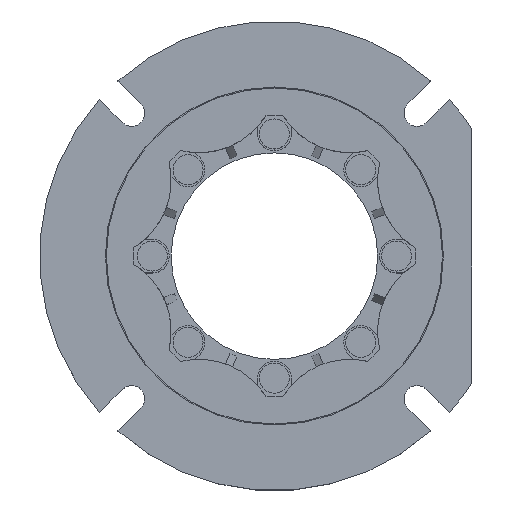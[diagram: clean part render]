
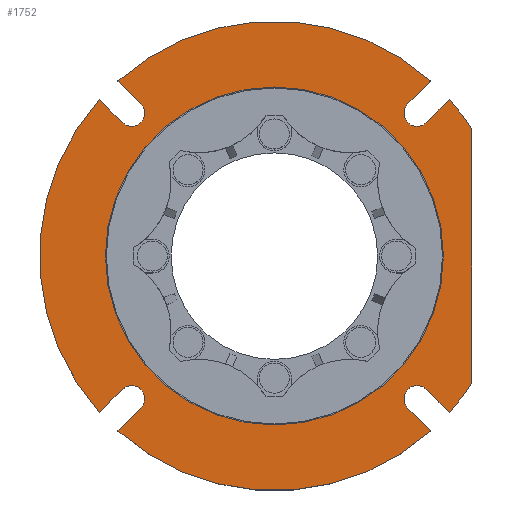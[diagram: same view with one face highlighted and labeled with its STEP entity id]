
A CAD part, top view. The second image highlights one B-rep face of the part: STEP entity #1752.
In plain terms, the highlighted planar face has unit normal (0, 0, 1) as drawn and (1, 0, 0) by its records, which use the part's own axes.
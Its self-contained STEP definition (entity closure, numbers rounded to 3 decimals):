
#1752=ADVANCED_FACE('',(#1982,#1955),#5540,.T.);
#1955=FACE_BOUND('',#2199,.T.);
#1982=FACE_OUTER_BOUND('',#2198,.T.);
#2198=EDGE_LOOP('',(#2600,#2601,#2602,#2603,#2604,#2605,#2606,#2607,#2608,
#2609,#2610,#2611,#2612,#2613,#2614,#2615,#2616,#2617));
#2199=EDGE_LOOP('',(#2618,#2619));
#2600=ORIENTED_EDGE('',*,*,#4069,.F.);
#2601=ORIENTED_EDGE('',*,*,#4074,.F.);
#2602=ORIENTED_EDGE('',*,*,#3710,.F.);
#2603=ORIENTED_EDGE('',*,*,#3726,.F.);
#2604=ORIENTED_EDGE('',*,*,#3802,.F.);
#2605=ORIENTED_EDGE('',*,*,#4047,.F.);
#2606=ORIENTED_EDGE('',*,*,#4051,.F.);
#2607=ORIENTED_EDGE('',*,*,#4050,.F.);
#2608=ORIENTED_EDGE('',*,*,#3720,.F.);
#2609=ORIENTED_EDGE('',*,*,#4055,.F.);
#2610=ORIENTED_EDGE('',*,*,#4059,.F.);
#2611=ORIENTED_EDGE('',*,*,#4058,.F.);
#2612=ORIENTED_EDGE('',*,*,#3716,.F.);
#2613=ORIENTED_EDGE('',*,*,#4063,.F.);
#2614=ORIENTED_EDGE('',*,*,#4067,.F.);
#2615=ORIENTED_EDGE('',*,*,#4066,.F.);
#2616=ORIENTED_EDGE('',*,*,#3724,.F.);
#2617=ORIENTED_EDGE('',*,*,#4076,.F.);
#2618=ORIENTED_EDGE('',*,*,#4164,.F.);
#2619=ORIENTED_EDGE('',*,*,#3978,.F.);
#3710=EDGE_CURVE('',#5181,#5182,#4246,.T.);
#3716=EDGE_CURVE('',#5187,#5188,#4249,.T.);
#3720=EDGE_CURVE('',#5191,#5192,#4251,.T.);
#3724=EDGE_CURVE('',#5195,#5196,#4253,.T.);
#3726=EDGE_CURVE('',#5200,#5181,#4778,.T.);
#3802=EDGE_CURVE('',#5201,#5200,#4287,.T.);
#3978=EDGE_CURVE('',#5197,#5419,#4372,.T.);
#4047=EDGE_CURVE('',#5202,#5201,#4963,.T.);
#4050=EDGE_CURVE('',#5192,#5203,#4966,.T.);
#4051=EDGE_CURVE('',#5203,#5202,#4390,.T.);
#4055=EDGE_CURVE('',#5204,#5191,#4969,.T.);
#4058=EDGE_CURVE('',#5188,#5205,#4972,.T.);
#4059=EDGE_CURVE('',#5205,#5204,#4392,.T.);
#4063=EDGE_CURVE('',#5206,#5187,#4975,.T.);
#4066=EDGE_CURVE('',#5196,#5207,#4978,.T.);
#4067=EDGE_CURVE('',#5207,#5206,#4394,.T.);
#4069=EDGE_CURVE('',#5198,#5199,#4396,.T.);
#4074=EDGE_CURVE('',#5182,#5198,#4982,.T.);
#4076=EDGE_CURVE('',#5199,#5195,#4984,.T.);
#4164=EDGE_CURVE('',#5419,#5197,#4434,.T.);
#4246=TRIMMED_CURVE($,#4508,(#8184),(#8185),.T.,.CARTESIAN.);
#4249=TRIMMED_CURVE($,#4511,(#8199),(#8200),.T.,.CARTESIAN.);
#4251=TRIMMED_CURVE($,#4513,(#8209),(#8210),.T.,.CARTESIAN.);
#4253=TRIMMED_CURVE($,#4515,(#8219),(#8220),.T.,.CARTESIAN.);
#4287=TRIMMED_CURVE($,#4549,(#8409),(#8410),.T.,.CARTESIAN.);
#4372=TRIMMED_CURVE($,#4634,(#8878),(#8879),.T.,.CARTESIAN.);
#4390=TRIMMED_CURVE($,#4652,(#9074),(#9075),.T.,.CARTESIAN.);
#4392=TRIMMED_CURVE($,#4654,(#9092),(#9093),.T.,.CARTESIAN.);
#4394=TRIMMED_CURVE($,#4656,(#9110),(#9111),.T.,.CARTESIAN.);
#4396=TRIMMED_CURVE($,#4658,(#9116),(#9117),.T.,.CARTESIAN.);
#4434=TRIMMED_CURVE($,#4696,(#9344),(#9345),.T.,.CARTESIAN.);
#4508=CIRCLE('',#6083,125.);
#4511=CIRCLE('',#6086,125.);
#4513=CIRCLE('',#6088,125.);
#4515=CIRCLE('',#6090,125.);
#4549=CIRCLE('',#6124,125.);
#4634=CIRCLE('',#6209,90.);
#4652=CIRCLE('',#6227,7.);
#4654=CIRCLE('',#6229,7.);
#4656=CIRCLE('',#6231,7.);
#4658=CIRCLE('',#6233,7.);
#4696=CIRCLE('',#6271,90.);
#4778=B_SPLINE_CURVE_WITH_KNOTS('',1,(#8223,#8224),.UNSPECIFIED.,.F.,.F.,
(2,2),(-135.647,0.),.UNSPECIFIED.);
#4963=B_SPLINE_CURVE_WITH_KNOTS('',1,(#9065,#9066),.UNSPECIFIED.,.F.,.F.,
(2,2),(0.,17.304),.UNSPECIFIED.);
#4966=B_SPLINE_CURVE_WITH_KNOTS('',1,(#9071,#9072),.UNSPECIFIED.,.F.,.F.,
(2,2),(0.,17.304),.UNSPECIFIED.);
#4969=B_SPLINE_CURVE_WITH_KNOTS('',1,(#9083,#9084),.UNSPECIFIED.,.F.,.F.,
(2,2),(0.,17.304),.UNSPECIFIED.);
#4972=B_SPLINE_CURVE_WITH_KNOTS('',1,(#9089,#9090),.UNSPECIFIED.,.F.,.F.,
(2,2),(0.,17.304),.UNSPECIFIED.);
#4975=B_SPLINE_CURVE_WITH_KNOTS('',1,(#9101,#9102),.UNSPECIFIED.,.F.,.F.,
(2,2),(0.,17.304),.UNSPECIFIED.);
#4978=B_SPLINE_CURVE_WITH_KNOTS('',1,(#9107,#9108),.UNSPECIFIED.,.F.,.F.,
(2,2),(0.,17.304),.UNSPECIFIED.);
#4982=B_SPLINE_CURVE_WITH_KNOTS('',1,(#9127,#9128),.UNSPECIFIED.,.F.,.F.,
(2,2),(0.,17.304),.UNSPECIFIED.);
#4984=B_SPLINE_CURVE_WITH_KNOTS('',1,(#9131,#9132),.UNSPECIFIED.,.F.,.F.,
(2,2),(0.,17.304),.UNSPECIFIED.);
#5181=VERTEX_POINT('',#7648);
#5182=VERTEX_POINT('',#7649);
#5187=VERTEX_POINT('',#7654);
#5188=VERTEX_POINT('',#7655);
#5191=VERTEX_POINT('',#7658);
#5192=VERTEX_POINT('',#7659);
#5195=VERTEX_POINT('',#7662);
#5196=VERTEX_POINT('',#7663);
#5197=VERTEX_POINT('',#7664);
#5198=VERTEX_POINT('',#7665);
#5199=VERTEX_POINT('',#7666);
#5200=VERTEX_POINT('',#7667);
#5201=VERTEX_POINT('',#7668);
#5202=VERTEX_POINT('',#7669);
#5203=VERTEX_POINT('',#7670);
#5204=VERTEX_POINT('',#7671);
#5205=VERTEX_POINT('',#7672);
#5206=VERTEX_POINT('',#7673);
#5207=VERTEX_POINT('',#7674);
#5419=VERTEX_POINT('',#7886);
#5540=PLANE('',#5841);
#5841=AXIS2_PLACEMENT_3D('',#7037,#6308,$);
#6083=AXIS2_PLACEMENT_3D($,#8183,#6606,#6607);
#6086=AXIS2_PLACEMENT_3D($,#8198,#6612,#6613);
#6088=AXIS2_PLACEMENT_3D($,#8208,#6616,#6617);
#6090=AXIS2_PLACEMENT_3D($,#8218,#6620,#6621);
#6124=AXIS2_PLACEMENT_3D($,#8408,#6688,#6689);
#6209=AXIS2_PLACEMENT_3D($,#8877,#6858,#6859);
#6227=AXIS2_PLACEMENT_3D($,#9073,#6894,#6895);
#6229=AXIS2_PLACEMENT_3D($,#9091,#6898,#6899);
#6231=AXIS2_PLACEMENT_3D($,#9109,#6902,#6903);
#6233=AXIS2_PLACEMENT_3D($,#9115,#6906,#6907);
#6271=AXIS2_PLACEMENT_3D($,#9343,#6982,#6983);
#6308=DIRECTION('',(1.,0.,0.));
#6606=DIRECTION('',(-1.,0.,0.));
#6607=DIRECTION('',(0.,0.543,0.84));
#6612=DIRECTION('',(-1.,0.,0.));
#6613=DIRECTION('',(0.,0.666,-0.746));
#6616=DIRECTION('',(-1.,0.,0.));
#6617=DIRECTION('',(0.,-0.746,-0.666));
#6620=DIRECTION('',(-1.,0.,0.));
#6621=DIRECTION('',(0.,0.746,0.666));
#6688=DIRECTION('',(-1.,0.,0.));
#6689=DIRECTION('',(0.,-0.666,0.746));
#6858=DIRECTION('',(1.,0.,0.));
#6859=DIRECTION('',(0.,0.,-1.));
#6894=DIRECTION('',(1.,0.,0.));
#6895=DIRECTION('',(0.,-0.707,-0.707));
#6898=DIRECTION('',(1.,0.,0.));
#6899=DIRECTION('',(0.,0.707,-0.707));
#6902=DIRECTION('',(1.,0.,0.));
#6903=DIRECTION('',(0.,0.707,0.707));
#6906=DIRECTION('',(1.,0.,0.));
#6907=DIRECTION('',(0.,-0.707,0.707));
#6982=DIRECTION('',(1.,0.,0.));
#6983=DIRECTION('',(0.,0.,1.));
#7037=CARTESIAN_POINT('',(55.,-201.242,-194.976));
#7648=CARTESIAN_POINT('',(55.,67.823,105.));
#7649=CARTESIAN_POINT('',(55.,83.3,93.199));
#7654=CARTESIAN_POINT('',(55.,83.3,-93.199));
#7655=CARTESIAN_POINT('',(55.,-83.3,-93.199));
#7658=CARTESIAN_POINT('',(55.,-93.199,-83.3));
#7659=CARTESIAN_POINT('',(55.,-93.199,83.3));
#7662=CARTESIAN_POINT('',(55.,93.199,83.3));
#7663=CARTESIAN_POINT('',(55.,93.199,-83.3));
#7664=CARTESIAN_POINT('',(55.,0.,-90.));
#7665=CARTESIAN_POINT('',(55.,71.064,80.964));
#7666=CARTESIAN_POINT('',(55.,80.964,71.064));
#7667=CARTESIAN_POINT('',(55.,-67.823,105.));
#7668=CARTESIAN_POINT('',(55.,-83.3,93.199));
#7669=CARTESIAN_POINT('',(55.,-71.064,80.964));
#7670=CARTESIAN_POINT('',(55.,-80.964,71.064));
#7671=CARTESIAN_POINT('',(55.,-80.964,-71.064));
#7672=CARTESIAN_POINT('',(55.,-71.064,-80.964));
#7673=CARTESIAN_POINT('',(55.,71.064,-80.964));
#7674=CARTESIAN_POINT('',(55.,80.964,-71.064));
#7886=CARTESIAN_POINT('',(55.,0.,90.));
#8183=CARTESIAN_POINT('',(55.,0.,0.));
#8184=CARTESIAN_POINT('',(55.,67.823,105.));
#8185=CARTESIAN_POINT('',(55.,83.3,93.199));
#8198=CARTESIAN_POINT('',(55.,0.,0.));
#8199=CARTESIAN_POINT('',(55.,83.3,-93.199));
#8200=CARTESIAN_POINT('',(55.,-83.3,-93.199));
#8208=CARTESIAN_POINT('',(55.,0.,0.));
#8209=CARTESIAN_POINT('',(55.,-93.199,-83.3));
#8210=CARTESIAN_POINT('',(55.,-93.199,83.3));
#8218=CARTESIAN_POINT('',(55.,0.,0.));
#8219=CARTESIAN_POINT('',(55.,93.199,83.3));
#8220=CARTESIAN_POINT('',(55.,93.199,-83.3));
#8223=CARTESIAN_POINT('',(55.,-67.823,105.));
#8224=CARTESIAN_POINT('',(55.,67.823,105.));
#8408=CARTESIAN_POINT('',(55.,0.,0.));
#8409=CARTESIAN_POINT('',(55.,-83.3,93.199));
#8410=CARTESIAN_POINT('',(55.,-67.823,105.));
#8877=CARTESIAN_POINT('',(55.,0.,0.));
#8878=CARTESIAN_POINT('',(55.,0.,-90.));
#8879=CARTESIAN_POINT('',(55.,0.,90.));
#9065=CARTESIAN_POINT('',(55.,-71.064,80.964));
#9066=CARTESIAN_POINT('',(55.,-83.3,93.199));
#9071=CARTESIAN_POINT('',(55.,-93.199,83.3));
#9072=CARTESIAN_POINT('',(55.,-80.964,71.064));
#9073=CARTESIAN_POINT('',(55.,-76.014,76.014));
#9074=CARTESIAN_POINT('',(55.,-80.964,71.064));
#9075=CARTESIAN_POINT('',(55.,-71.064,80.964));
#9083=CARTESIAN_POINT('',(55.,-80.964,-71.064));
#9084=CARTESIAN_POINT('',(55.,-93.199,-83.3));
#9089=CARTESIAN_POINT('',(55.,-83.3,-93.199));
#9090=CARTESIAN_POINT('',(55.,-71.064,-80.964));
#9091=CARTESIAN_POINT('',(55.,-76.014,-76.014));
#9092=CARTESIAN_POINT('',(55.,-71.064,-80.964));
#9093=CARTESIAN_POINT('',(55.,-80.964,-71.064));
#9101=CARTESIAN_POINT('',(55.,71.064,-80.964));
#9102=CARTESIAN_POINT('',(55.,83.3,-93.199));
#9107=CARTESIAN_POINT('',(55.,93.199,-83.3));
#9108=CARTESIAN_POINT('',(55.,80.964,-71.064));
#9109=CARTESIAN_POINT('',(55.,76.014,-76.014));
#9110=CARTESIAN_POINT('',(55.,80.964,-71.064));
#9111=CARTESIAN_POINT('',(55.,71.064,-80.964));
#9115=CARTESIAN_POINT('',(55.,76.014,76.014));
#9116=CARTESIAN_POINT('',(55.,71.064,80.964));
#9117=CARTESIAN_POINT('',(55.,80.964,71.064));
#9127=CARTESIAN_POINT('',(55.,83.3,93.199));
#9128=CARTESIAN_POINT('',(55.,71.064,80.964));
#9131=CARTESIAN_POINT('',(55.,80.964,71.064));
#9132=CARTESIAN_POINT('',(55.,93.199,83.3));
#9343=CARTESIAN_POINT('',(55.,0.,0.));
#9344=CARTESIAN_POINT('',(55.,0.,90.));
#9345=CARTESIAN_POINT('',(55.,0.,-90.));
